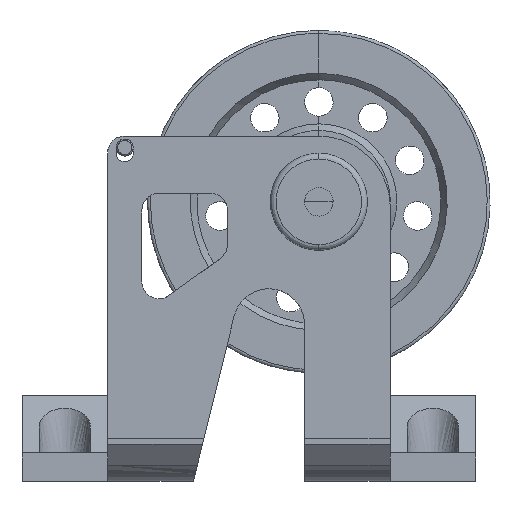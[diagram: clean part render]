
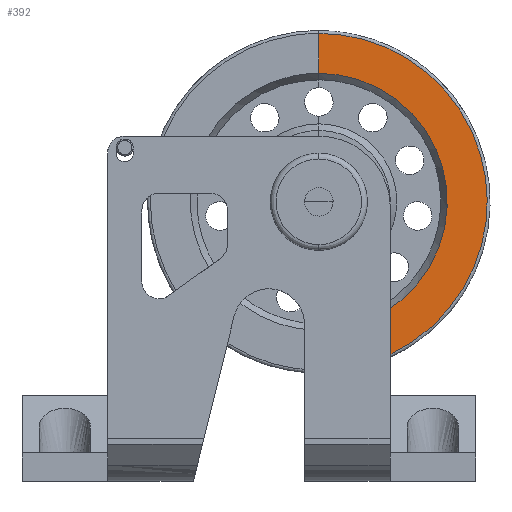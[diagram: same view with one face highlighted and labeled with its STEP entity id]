
A CAD part, left-side view. The second image highlights one B-rep face of the part: STEP entity #392.
In plain terms, the highlighted free-form (B-spline) face has degree [2, 1] with [5, 2] control points.
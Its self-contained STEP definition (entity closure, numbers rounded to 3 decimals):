
#392=ADVANCED_FACE($,(#753),#3851,.T.);
#753=FACE_OUTER_BOUND($,#1094,.T.);
#1094=EDGE_LOOP($,(#2272,#2273,#2274,#2275));
#2272=ORIENTED_EDGE($,*,*,#3196,.T.);
#2273=ORIENTED_EDGE($,*,*,#3075,.F.);
#2274=ORIENTED_EDGE($,*,*,#3111,.F.);
#2275=ORIENTED_EDGE($,*,*,#3097,.T.);
#3075=EDGE_CURVE($,#3571,#3632,#11624,.T.);
#3097=EDGE_CURVE($,#3583,#3644,#11641,.T.);
#3111=EDGE_CURVE($,#3583,#3571,#4305,.T.);
#3196=EDGE_CURVE($,#3644,#3632,#4335,.T.);
#3571=VERTEX_POINT($,#11290);
#3583=VERTEX_POINT($,#11302);
#3632=VERTEX_POINT($,#11351);
#3644=VERTEX_POINT($,#11363);
#3851=(
BOUNDED_SURFACE()
B_SPLINE_SURFACE(2,1,((#10695,#10696),(#10697,#10698),(#10699,#10700),(#10701,
#10702),(#10703,#10704)),.UNSPECIFIED.,.F.,.F.,.F.)
B_SPLINE_SURFACE_WITH_KNOTS((3,2,3),(2,2),(0.,1.571,3.142),
(45.,59.),.UNSPECIFIED.)
GEOMETRIC_REPRESENTATION_ITEM()
RATIONAL_B_SPLINE_SURFACE(((1.,1.),(0.707,0.707),
(1.,1.),(0.707,0.707),(1.,1.)))
REPRESENTATION_ITEM($)
SURFACE()
);
#4305=B_SPLINE_CURVE_WITH_KNOTS($,1,(#10037,#10038),.UNSPECIFIED.,.F.,.F.,
(2,2),(45.,59.),.UNSPECIFIED.);
#4335=B_SPLINE_CURVE_WITH_KNOTS($,1,(#10352,#10353),.UNSPECIFIED.,.F.,.F.,
(2,2),(45.,59.),.UNSPECIFIED.);
#9898=CARTESIAN_POINT($,(-70.159,-106.695,133.836));
#9899=CARTESIAN_POINT($,(-70.159,-165.695,133.836));
#9900=CARTESIAN_POINT($,(-70.159,-165.695,74.836));
#9901=CARTESIAN_POINT($,(-70.159,-165.695,15.836));
#9902=CARTESIAN_POINT($,(-70.159,-106.695,15.836));
#9985=CARTESIAN_POINT($,(-70.159,-106.695,119.836));
#9986=CARTESIAN_POINT($,(-70.159,-151.695,119.836));
#9987=CARTESIAN_POINT($,(-70.159,-151.695,74.836));
#9988=CARTESIAN_POINT($,(-70.159,-151.695,29.836));
#9989=CARTESIAN_POINT($,(-70.159,-106.695,29.836));
#10037=CARTESIAN_POINT($,(-70.159,-106.695,119.836));
#10038=CARTESIAN_POINT($,(-70.159,-106.695,133.836));
#10352=CARTESIAN_POINT($,(-70.159,-106.695,29.836));
#10353=CARTESIAN_POINT($,(-70.159,-106.695,15.836));
#10695=CARTESIAN_POINT($,(-70.159,-106.695,119.836));
#10696=CARTESIAN_POINT($,(-70.159,-106.695,133.836));
#10697=CARTESIAN_POINT($,(-70.159,-151.695,119.836));
#10698=CARTESIAN_POINT($,(-70.159,-165.695,133.836));
#10699=CARTESIAN_POINT($,(-70.159,-151.695,74.836));
#10700=CARTESIAN_POINT($,(-70.159,-165.695,74.836));
#10701=CARTESIAN_POINT($,(-70.159,-151.695,29.836));
#10702=CARTESIAN_POINT($,(-70.159,-165.695,15.836));
#10703=CARTESIAN_POINT($,(-70.159,-106.695,29.836));
#10704=CARTESIAN_POINT($,(-70.159,-106.695,15.836));
#11290=CARTESIAN_POINT($,(-70.159,-106.695,133.836));
#11302=CARTESIAN_POINT($,(-70.159,-106.695,119.836));
#11351=CARTESIAN_POINT($,(-70.159,-106.695,15.836));
#11363=CARTESIAN_POINT($,(-70.159,-106.695,29.836));
#11624=(
BOUNDED_CURVE()
B_SPLINE_CURVE(2,(#9898,#9899,#9900,#9901,#9902),.UNSPECIFIED.,.F.,.F.)
B_SPLINE_CURVE_WITH_KNOTS((3,2,3),(0.,1.571,3.142),
.UNSPECIFIED.)
CURVE()
GEOMETRIC_REPRESENTATION_ITEM()
RATIONAL_B_SPLINE_CURVE((1.,0.707,1.,0.707,1.))
REPRESENTATION_ITEM($)
);
#11641=(
BOUNDED_CURVE()
B_SPLINE_CURVE(2,(#9985,#9986,#9987,#9988,#9989),.UNSPECIFIED.,.F.,.F.)
B_SPLINE_CURVE_WITH_KNOTS((3,2,3),(0.,1.571,3.142),
.UNSPECIFIED.)
CURVE()
GEOMETRIC_REPRESENTATION_ITEM()
RATIONAL_B_SPLINE_CURVE((1.,0.707,1.,0.707,1.))
REPRESENTATION_ITEM($)
);
